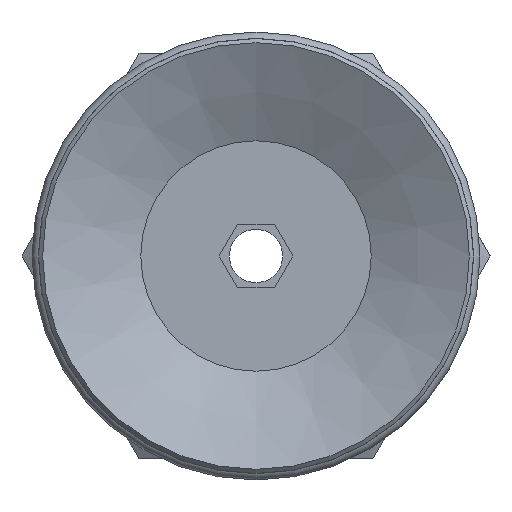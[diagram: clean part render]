
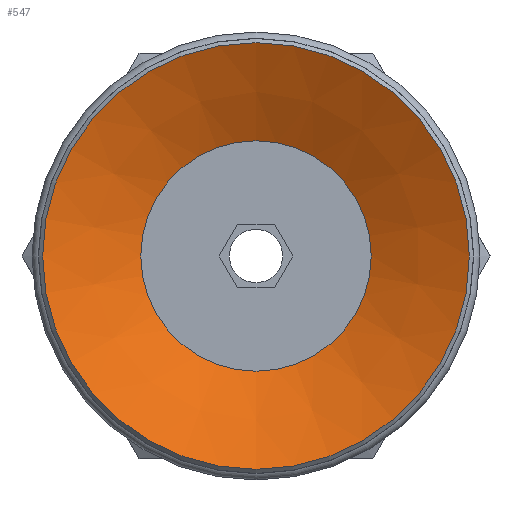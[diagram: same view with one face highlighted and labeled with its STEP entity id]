
A CAD part, front view. The second image highlights one B-rep face of the part: STEP entity #547.
In plain terms, the highlighted conical face has half-angle 63 degrees and reference radius 5.4 mm.
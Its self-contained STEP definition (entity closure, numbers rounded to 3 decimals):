
#547=ADVANCED_FACE('',(#783,#784),#785,.F.);
#783=FACE_BOUND('',#1042,.T.);
#784=FACE_OUTER_BOUND('',#1043,.T.);
#785=CONICAL_SURFACE('',#1044,5.4,1.1);
#1042=EDGE_LOOP('',(#1698));
#1043=EDGE_LOOP('',(#1699));
#1044=AXIS2_PLACEMENT_3D('',#1700,#1701,#1702);
#1698=ORIENTED_EDGE('',*,*,#1934,.F.);
#1699=ORIENTED_EDGE('',*,*,#1935,.T.);
#1700=CARTESIAN_POINT('',(0.0,5.518,0.0));
#1701=DIRECTION('',(-0.0,-1.0,0.));
#1702=DIRECTION('',(0.0,0.,-1.0));
#1934=EDGE_CURVE('',#2240,#2240,#2241,.T.);
#1935=EDGE_CURVE('',#2242,#2242,#2243,.T.);
#2240=VERTEX_POINT('',#2944);
#2241=CIRCLE('',#2945,5.4);
#2242=VERTEX_POINT('',#2946);
#2243=CIRCLE('',#2947,10.0);
#2944=CARTESIAN_POINT('',(0.0,5.518,-5.4));
#2945=AXIS2_PLACEMENT_3D('',#3236,#3237,#3238);
#2946=CARTESIAN_POINT('',(0.0,3.175,-10.0));
#2947=AXIS2_PLACEMENT_3D('',#3239,#3240,#3241);
#3236=CARTESIAN_POINT('',(0.0,5.518,0.0));
#3237=DIRECTION('',(0.0,-1.0,0.));
#3238=DIRECTION('',(0.0,0.,-1.0));
#3239=CARTESIAN_POINT('',(0.0,3.175,0.0));
#3240=DIRECTION('',(0.0,-1.0,0.));
#3241=DIRECTION('',(0.0,0.,-1.0));
